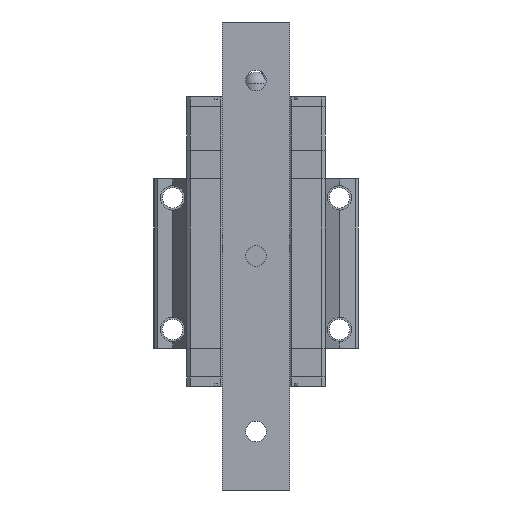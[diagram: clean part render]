
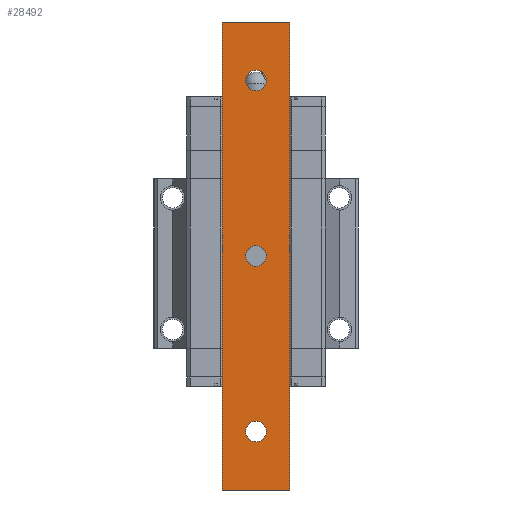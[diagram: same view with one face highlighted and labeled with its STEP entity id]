
A CAD part, front view. The second image highlights one B-rep face of the part: STEP entity #28492.
In plain terms, the highlighted planar face has unit normal (0, -1, 0).
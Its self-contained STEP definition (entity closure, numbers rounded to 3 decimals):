
#590 = CARTESIAN_POINT ( 'NONE',  ( 0., -5.6, -63.5 ) ) ;
#1333 = AXIS2_PLACEMENT_3D ( 'NONE', #7416, #19658, #31907 ) ;
#1794 = AXIS2_PLACEMENT_3D ( 'NONE', #28520, #6319, #28844 ) ;
#2114 = CARTESIAN_POINT ( 'NONE',  ( -11.5, -5.6, -80. ) ) ;
#2215 = CARTESIAN_POINT ( 'NONE',  ( 0., -5.6, -60. ) ) ;
#2696 = EDGE_LOOP ( 'NONE', ( #18929, #3517, #27074, #32039 ) ) ;
#3102 = DIRECTION ( 'NONE',  ( 0., 0., 1. ) ) ;
#3249 = CARTESIAN_POINT ( 'NONE',  ( -11.5, -5.6, 80. ) ) ;
#3517 = ORIENTED_EDGE ( 'NONE', *, *, #11111, .F. ) ;
#3522 = VERTEX_POINT ( 'NONE', #12623 ) ;
#3762 = ORIENTED_EDGE ( 'NONE', *, *, #21832, .T. ) ;
#4010 = EDGE_CURVE ( 'NONE', #8032, #10003, #27734, .T. ) ;
#4374 = DIRECTION ( 'NONE',  ( 0., 0., 1. ) ) ;
#4430 = FACE_BOUND ( 'NONE', #24556, .T. ) ;
#4586 = PLANE ( 'NONE',  #1333 ) ;
#4737 = CARTESIAN_POINT ( 'NONE',  ( 11.5, -5.6, -80. ) ) ;
#4782 = DIRECTION ( 'NONE',  ( 1., 0., 0. ) ) ;
#5887 = EDGE_CURVE ( 'NONE', #23020, #28075, #20918, .T. ) ;
#6319 = DIRECTION ( 'NONE',  ( 0., 1., 0. ) ) ;
#6366 = EDGE_LOOP ( 'NONE', ( #8027, #32072 ) ) ;
#6528 = VECTOR ( 'NONE', #3102, 1000. ) ;
#6761 = EDGE_CURVE ( 'NONE', #28075, #3522, #32055, .T. ) ;
#7146 = DIRECTION ( 'NONE',  ( 1., 0., 0. ) ) ;
#7170 = FACE_BOUND ( 'NONE', #9075, .T. ) ;
#7255 = CARTESIAN_POINT ( 'NONE',  ( 0., -5.6, 56.5 ) ) ;
#7416 = CARTESIAN_POINT ( 'NONE',  ( -11.5, -5.6, -80. ) ) ;
#7655 = AXIS2_PLACEMENT_3D ( 'NONE', #25465, #19591, #18585 ) ;
#8027 = ORIENTED_EDGE ( 'NONE', *, *, #4010, .T. ) ;
#8032 = VERTEX_POINT ( 'NONE', #9800 ) ;
#8493 = DIRECTION ( 'NONE',  ( 0., 0., 1. ) ) ;
#8597 = ORIENTED_EDGE ( 'NONE', *, *, #16683, .T. ) ;
#8903 = VERTEX_POINT ( 'NONE', #590 ) ;
#9009 = ORIENTED_EDGE ( 'NONE', *, *, #12637, .T. ) ;
#9075 = EDGE_LOOP ( 'NONE', ( #9009, #3762 ) ) ;
#9800 = CARTESIAN_POINT ( 'NONE',  ( 0., -5.6, 3.5 ) ) ;
#10003 = VERTEX_POINT ( 'NONE', #30981 ) ;
#10222 = CARTESIAN_POINT ( 'NONE',  ( 0., -5.6, 60. ) ) ;
#10543 = CARTESIAN_POINT ( 'NONE',  ( 0., -5.6, -60. ) ) ;
#11111 = EDGE_CURVE ( 'NONE', #25381, #3522, #15189, .T. ) ;
#11810 = ORIENTED_EDGE ( 'NONE', *, *, #19312, .T. ) ;
#12623 = CARTESIAN_POINT ( 'NONE',  ( 11.5, -5.6, 80. ) ) ;
#12637 = EDGE_CURVE ( 'NONE', #22361, #24033, #32104, .T. ) ;
#12757 = AXIS2_PLACEMENT_3D ( 'NONE', #31612, #29215, #14373 ) ;
#13135 = DIRECTION ( 'NONE',  ( 0., 1., 0. ) ) ;
#14373 = DIRECTION ( 'NONE',  ( 0., 0., 1. ) ) ;
#15189 = LINE ( 'NONE', #19698, #28373 ) ;
#15582 = CARTESIAN_POINT ( 'NONE',  ( -11.5, -5.6, -80. ) ) ;
#16683 = EDGE_CURVE ( 'NONE', #8903, #22487, #18991, .T. ) ;
#18585 = DIRECTION ( 'NONE',  ( 0., 0., 1. ) ) ;
#18774 = AXIS2_PLACEMENT_3D ( 'NONE', #10543, #13135, #8493 ) ;
#18929 = ORIENTED_EDGE ( 'NONE', *, *, #6761, .T. ) ;
#18990 = CARTESIAN_POINT ( 'NONE',  ( -11.5, -5.6, -80. ) ) ;
#18991 = CIRCLE ( 'NONE', #18774, 3.5 ) ;
#19312 = EDGE_CURVE ( 'NONE', #22487, #8903, #23278, .T. ) ;
#19453 = DIRECTION ( 'NONE',  ( 0., 0., 1. ) ) ;
#19591 = DIRECTION ( 'NONE',  ( 0., 1., 0. ) ) ;
#19658 = DIRECTION ( 'NONE',  ( 0., -1., 0. ) ) ;
#19698 = CARTESIAN_POINT ( 'NONE',  ( -11.5, -5.6, 80. ) ) ;
#20102 = DIRECTION ( 'NONE',  ( 0., 1., 0. ) ) ;
#20143 = VECTOR ( 'NONE', #4782, 1000. ) ;
#20341 = AXIS2_PLACEMENT_3D ( 'NONE', #10222, #20102, #19453 ) ;
#20918 = LINE ( 'NONE', #2114, #20143 ) ;
#21832 = EDGE_CURVE ( 'NONE', #24033, #22361, #31969, .T. ) ;
#22361 = VERTEX_POINT ( 'NONE', #25562 ) ;
#22487 = VERTEX_POINT ( 'NONE', #23765 ) ;
#23020 = VERTEX_POINT ( 'NONE', #18990 ) ;
#23278 = CIRCLE ( 'NONE', #26305, 3.5 ) ;
#23640 = CIRCLE ( 'NONE', #1794, 3.5 ) ;
#23765 = CARTESIAN_POINT ( 'NONE',  ( 0., -5.6, -56.5 ) ) ;
#23942 = LINE ( 'NONE', #15582, #6528 ) ;
#24033 = VERTEX_POINT ( 'NONE', #7255 ) ;
#24295 = DIRECTION ( 'NONE',  ( 0., 1., 0. ) ) ;
#24556 = EDGE_LOOP ( 'NONE', ( #11810, #8597 ) ) ;
#24595 = FACE_OUTER_BOUND ( 'NONE', #2696, .T. ) ;
#25381 = VERTEX_POINT ( 'NONE', #3249 ) ;
#25465 = CARTESIAN_POINT ( 'NONE',  ( 0., -5.6, 60. ) ) ;
#25562 = CARTESIAN_POINT ( 'NONE',  ( 0., -5.6, 63.5 ) ) ;
#26244 = VECTOR ( 'NONE', #27067, 1000. ) ;
#26305 = AXIS2_PLACEMENT_3D ( 'NONE', #2215, #24295, #4374 ) ;
#26701 = EDGE_CURVE ( 'NONE', #23020, #25381, #23942, .T. ) ;
#26934 = FACE_BOUND ( 'NONE', #6366, .T. ) ;
#27067 = DIRECTION ( 'NONE',  ( 0., 0., 1. ) ) ;
#27074 = ORIENTED_EDGE ( 'NONE', *, *, #26701, .F. ) ;
#27734 = CIRCLE ( 'NONE', #12757, 3.5 ) ;
#27884 = CARTESIAN_POINT ( 'NONE',  ( 11.5, -5.6, -80. ) ) ;
#28075 = VERTEX_POINT ( 'NONE', #27884 ) ;
#28373 = VECTOR ( 'NONE', #7146, 1000. ) ;
#28492 = ADVANCED_FACE ( 'NONE', ( #4430, #26934, #7170, #24595 ), #4586, .T. ) ;
#28520 = CARTESIAN_POINT ( 'NONE',  ( 0., -5.6, 0. ) ) ;
#28844 = DIRECTION ( 'NONE',  ( 0., 0., 1. ) ) ;
#29215 = DIRECTION ( 'NONE',  ( 0., 1., 0. ) ) ;
#29750 = EDGE_CURVE ( 'NONE', #10003, #8032, #23640, .T. ) ;
#30981 = CARTESIAN_POINT ( 'NONE',  ( 0., -5.6, -3.5 ) ) ;
#31612 = CARTESIAN_POINT ( 'NONE',  ( 0., -5.6, 0. ) ) ;
#31907 = DIRECTION ( 'NONE',  ( 1., 0., 0. ) ) ;
#31969 = CIRCLE ( 'NONE', #20341, 3.5 ) ;
#32039 = ORIENTED_EDGE ( 'NONE', *, *, #5887, .T. ) ;
#32055 = LINE ( 'NONE', #4737, #26244 ) ;
#32072 = ORIENTED_EDGE ( 'NONE', *, *, #29750, .T. ) ;
#32104 = CIRCLE ( 'NONE', #7655, 3.5 ) ;
